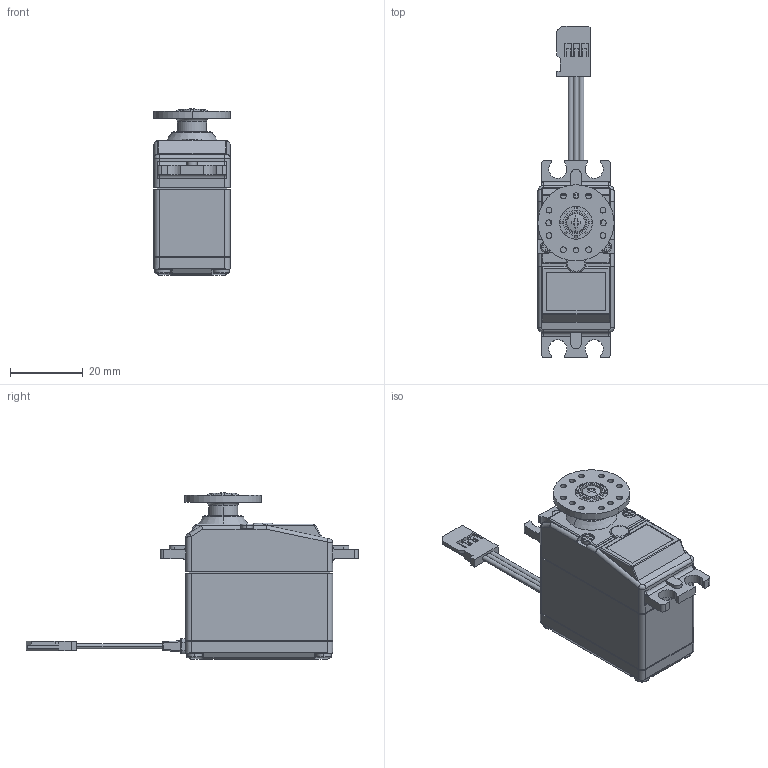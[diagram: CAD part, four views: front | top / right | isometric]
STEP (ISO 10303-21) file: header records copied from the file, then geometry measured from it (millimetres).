
FILE_DESCRIPTION (( 'STEP AP203' ), '1' );
FILE_NAME ('S-A602_1.STEP', '2026-08-28T07:43:58', ( '' ), ( '' ), 'SwSTEP 2.0', 'SolidWorks 2025', '' );
FILE_SCHEMA (( 'CONFIG_CONTROL_DESIGN' ));
Length unit declared in the file: millimetre
Products named in the file (4): S-A601.step; 1M11K05302_HORN D(3D)_D6T25L40; S-A602_1; HPS-A703(3D) ねじ8mm
Assembly tree (3 placements, depth 2):
  S-A602_1
    S-A601.step
    1M11K05302_HORN D(3D)_D6T25L40
    HPS-A703(3D) ねじ8mm
Bounding box: 21 x 91.5 x 45.79 mm (x, y, z)
Volume: 32844.9 mm3; surface area: 9515.4 mm2
Topology: 4 solids, 6 shells, 612 faces, 1567 edges, 1000 vertices
Faces by surface type: plane 328, cylinder 207, torus 38, cone 15, sphere 14, bspline 10
Entity records: 19421 total; most frequent: CARTESIAN_POINT 4016, DIRECTION 3160, ORIENTED_EDGE 3104, EDGE_CURVE 1563, AXIS2_PLACEMENT_3D 1096, VERTEX_POINT 1000, VECTOR 968, LINE 968
